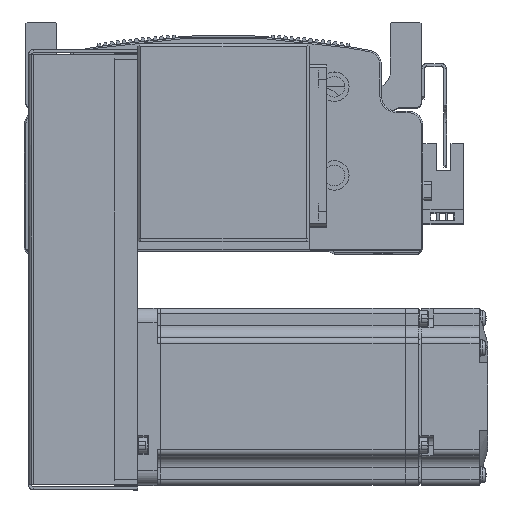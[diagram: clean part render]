
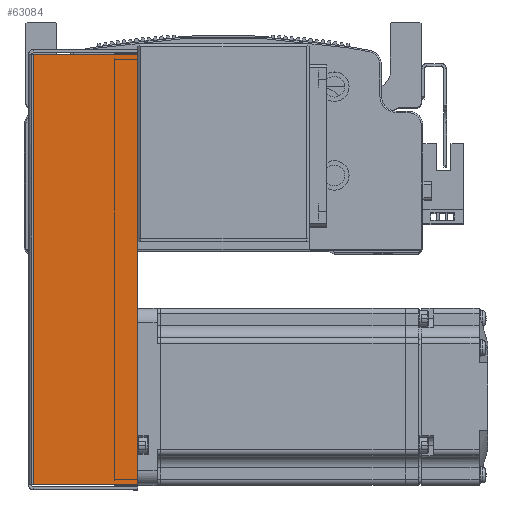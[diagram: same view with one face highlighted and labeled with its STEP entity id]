
A CAD part, top view. The second image highlights one B-rep face of the part: STEP entity #63084.
In plain terms, the highlighted planar face has unit normal (0, 0, 1) as drawn and (0, 0, -1) by its records, which use the part's own axes.
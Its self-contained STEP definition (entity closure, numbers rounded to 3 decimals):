
#3478 = AXIS2_PLACEMENT_3D ( 'NONE', #69153, #69123, #69108 ) ;
#9349 = ORIENTED_EDGE ( 'NONE', *, *, #44096, .F. ) ;
#9361 = ORIENTED_EDGE ( 'NONE', *, *, #44054, .T. ) ;
#9368 = ORIENTED_EDGE ( 'NONE', *, *, #44059, .T. ) ;
#9942 = ORIENTED_EDGE ( 'NONE', *, *, #44081, .F. ) ;
#10632 = CARTESIAN_POINT ( 'NONE',  ( 72.793, 36., -34.5 ) ) ;
#10666 = CARTESIAN_POINT ( 'NONE',  ( -72.793, 36., -34.5 ) ) ;
#10671 = CARTESIAN_POINT ( 'NONE',  ( -72.793, 0.737, -34.5 ) ) ;
#10684 = CARTESIAN_POINT ( 'NONE',  ( 72.793, 0.737, -34.5 ) ) ;
#12500 = VECTOR ( 'NONE', #58356, 1000. ) ;
#12502 = LINE ( 'NONE', #58446, #12563 ) ;
#12516 = LINE ( 'NONE', #58347, #12500 ) ;
#12530 = VECTOR ( 'NONE', #58327, 1000. ) ;
#12544 = LINE ( 'NONE', #58326, #12530 ) ;
#12563 = VECTOR ( 'NONE', #58472, 1000. ) ;
#12585 = LINE ( 'NONE', #58491, #12621 ) ;
#12621 = VECTOR ( 'NONE', #58496, 1000. ) ;
#33100 = VERTEX_POINT ( 'NONE', #10632 ) ;
#33110 = VERTEX_POINT ( 'NONE', #10684 ) ;
#33113 = VERTEX_POINT ( 'NONE', #10671 ) ;
#33125 = VERTEX_POINT ( 'NONE', #10666 ) ;
#44054 = EDGE_CURVE ( 'NONE', #33125, #33100, #12544, .T. ) ;
#44059 = EDGE_CURVE ( 'NONE', #33113, #33125, #12516, .T. ) ;
#44081 = EDGE_CURVE ( 'NONE', #33113, #33110, #12502, .T. ) ;
#44096 = EDGE_CURVE ( 'NONE', #33110, #33100, #12585, .T. ) ;
#58326 = CARTESIAN_POINT ( 'NONE',  ( 0., 36., -34.5 ) ) ;
#58327 = DIRECTION ( 'NONE',  ( 1., 0., 0. ) ) ;
#58347 = CARTESIAN_POINT ( 'NONE',  ( -72.793, 0., -34.5 ) ) ;
#58356 = DIRECTION ( 'NONE',  ( 0., 1., 0. ) ) ;
#58446 = CARTESIAN_POINT ( 'NONE',  ( 74.5, 0.737, -34.5 ) ) ;
#58472 = DIRECTION ( 'NONE',  ( 1., 0., 0. ) ) ;
#58491 = CARTESIAN_POINT ( 'NONE',  ( 72.793, 0., -34.5 ) ) ;
#58496 = DIRECTION ( 'NONE',  ( 0., 1., 0. ) ) ;
#63084 = ADVANCED_FACE ( 'NONE', ( #65127 ), #69132, .F. ) ;
#65127 = FACE_OUTER_BOUND ( 'NONE', #77055, .T. ) ;
#69108 = DIRECTION ( 'NONE',  ( 0., -1., 0. ) ) ;
#69123 = DIRECTION ( 'NONE',  ( 0., 0., 1. ) ) ;
#69132 = PLANE ( 'NONE',  #3478 ) ;
#69153 = CARTESIAN_POINT ( 'NONE',  ( 0., 0., -34.5 ) ) ;
#77055 = EDGE_LOOP ( 'NONE', ( #9942, #9368, #9361, #9349 ) ) ;
